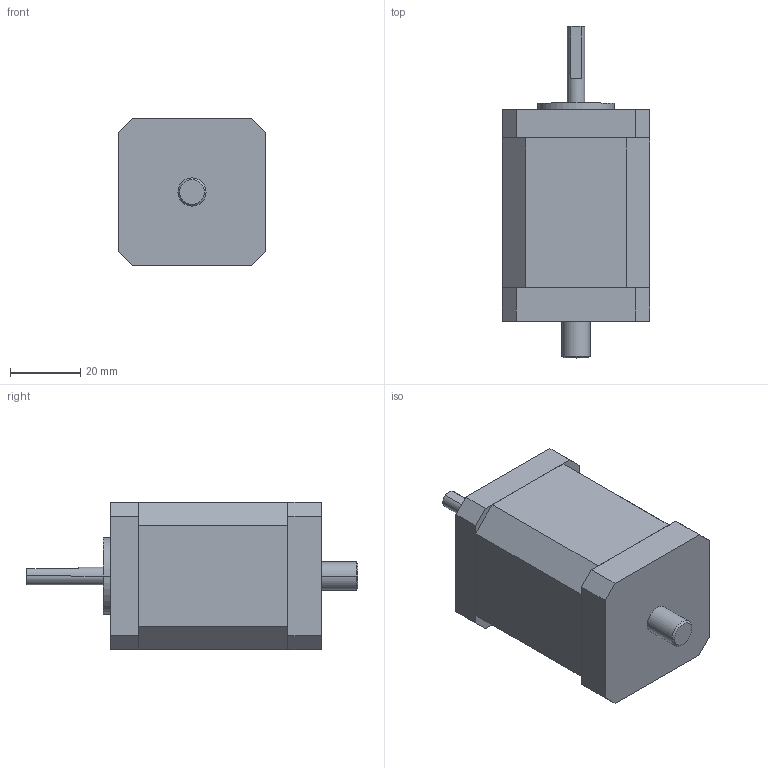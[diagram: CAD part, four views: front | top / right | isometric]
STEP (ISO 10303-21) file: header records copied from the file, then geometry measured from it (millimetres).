
FILE_DESCRIPTION (( 'STEP AP203' ), '1' );
FILE_NAME ('iHSS42-24-07.STEP', '2020-05-06T07:40:13', ( 'USER-' ), ( 'MS' ), 'SwSTEP 2.0', 'SolidWorks 2018', '' );
FILE_SCHEMA (( 'CONFIG_CONTROL_DESIGN' ));
Length unit declared in the file: millimetre
Products named in the file (5): 42一体化底盖后出轴9.5; iHSS42珨极趙綴裔27x42x69.4; iHSS42-24-07; 42珨极趙儂旯42.5mm; 42x8一体化上盖5x24扁轴4.5x15法兰22x2
Assembly tree (4 placements, depth 2):
  iHSS42-24-07
    42珨极趙儂旯42.5mm
    42x8一体化上盖5x24扁轴4.5x15法兰22x2
    42一体化底盖后出轴9.5
    iHSS42珨极趙綴裔27x42x69.4
Bounding box: 42 x 94.8 x 42 mm (x, y, z)
Volume: 102985.7 mm3; surface area: 20758.4 mm2
Topology: 3 solids, 3 shells, 83 faces, 182 edges, 118 vertices
Faces by surface type: plane 45, cylinder 24, cone 14
Entity records: 125229 total; most frequent: CARTESIAN_POINT 57864, ORIENTED_EDGE 15262, DIRECTION 11587, EDGE_CURVE 7631, VECTOR 4963, LINE 4963, VERTEX_POINT 4845, AXIS2_PLACEMENT_3D 3312
